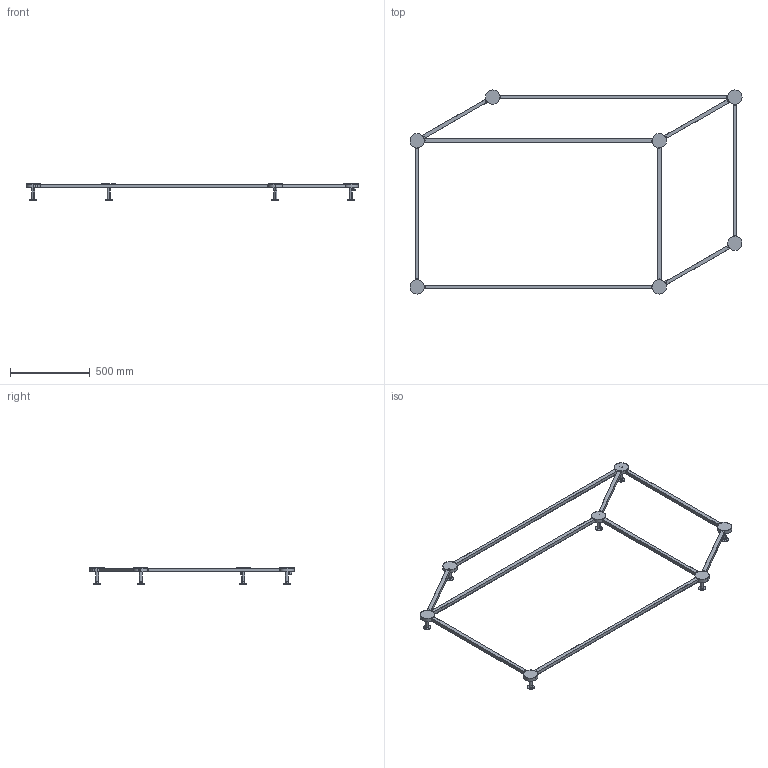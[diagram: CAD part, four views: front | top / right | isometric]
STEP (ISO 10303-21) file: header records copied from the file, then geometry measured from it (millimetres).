
FILE_DESCRIPTION (( 'STEP AP203' ), '1' );
FILE_NAME ('APPOS01XXXXXXXX-PER 3D.STEP', '2026-07-08T11:13:57', ( '' ), ( '' ), 'SwSTEP 2.0', 'SolidWorks 2026', '' );
FILE_SCHEMA (( 'CONFIG_CONTROL_DESIGN' ));
Products named in the file (1): APPOS01XXXXXXXX-PER 3D
Bounding box: 2076.48 x 1277 x 101 mm (x, y, z)
Surface area: 971004.7 mm2 (no closed solid volume)
Topology: 0 solids, 160 shells, 418 faces, 3664 edges, 3371 vertices
Faces by surface type: plane 216, cylinder 151, cone 47, bspline 4
Entity records: 44944 total; most frequent: CARTESIAN_POINT 20420, DIRECTION 4103, ORIENTED_EDGE 4095, EDGE_CURVE 3664, VERTEX_POINT 3371, LINE 2207, VECTOR 2207, AXIS2_PLACEMENT_3D 948
